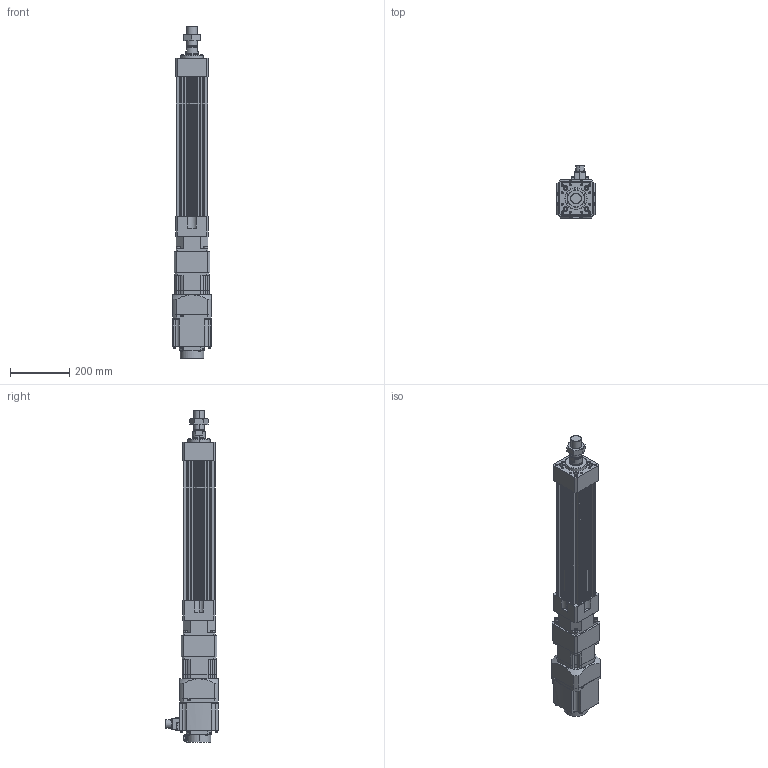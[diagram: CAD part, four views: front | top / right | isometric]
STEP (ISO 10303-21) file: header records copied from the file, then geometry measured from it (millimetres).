
FILE_DESCRIPTION (( 'STEP AP203' ), '1' );
FILE_NAME ('HES110NS(HS)-S300-W015G00-M.STEP', '2023-01-27T10:35:24', ( 'tms' ), ( '' ), 'SwSTEP 2.0', 'SolidWorks 2013', '' );
FILE_SCHEMA (( 'CONFIG_CONTROL_DESIGN' ));
Length unit declared in the file: millimetre
Products named in the file (8): AB1151; M36X1.5P; P0401400706; HES110 ROD M ST300; HG-SR152; AB115-003[HG-SR152]; HES110-S300-G120; HES110NS(HS)-S300-W015G00-M
Assembly tree (7 placements, depth 3):
  HES110NS(HS)-S300-W015G00-M
    HES110-S300-G120
    HES110 ROD M ST300
    M36X1.5P
    AB115-003[HG-SR152]
      AB1151
      P0401400706
    HG-SR152
Bounding box: 130 x 177.49 x 1121.5 mm (x, y, z)
Volume: 7150341.6 mm3; surface area: 981752.6 mm2
Topology: 4 solids, 15 shells, 1202 faces, 3026 edges, 1951 vertices
Faces by surface type: plane 551, cylinder 537, cone 102, bspline 8, torus 4
Entity records: 37654 total; most frequent: CARTESIAN_POINT 7134, DIRECTION 6533, ORIENTED_EDGE 5960, EDGE_CURVE 2990, AXIS2_PLACEMENT_3D 2410, VERTEX_POINT 1951, LINE 1713, VECTOR 1713
